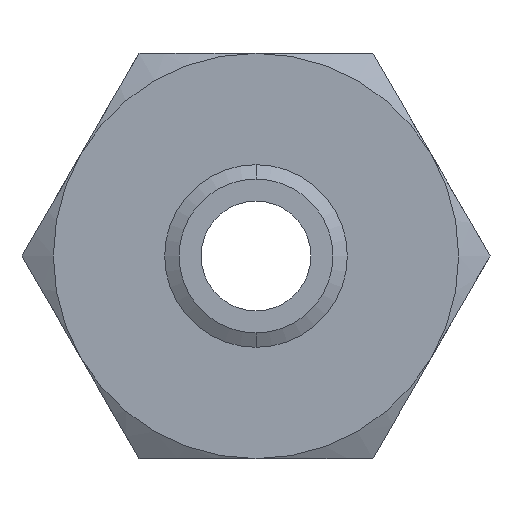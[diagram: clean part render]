
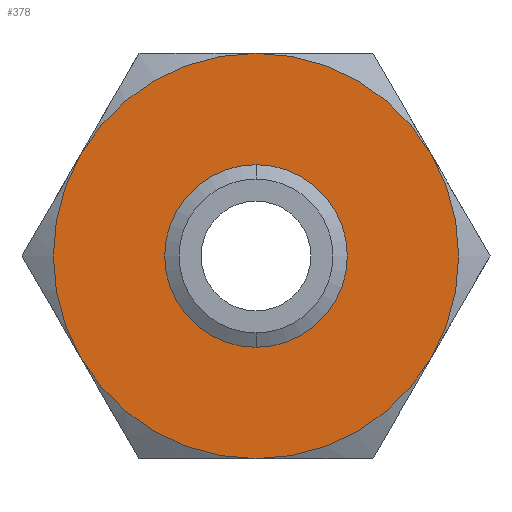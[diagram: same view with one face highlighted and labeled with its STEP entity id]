
A CAD part, front view. The second image highlights one B-rep face of the part: STEP entity #378.
In plain terms, the highlighted planar face has unit normal (0, -1, 0).
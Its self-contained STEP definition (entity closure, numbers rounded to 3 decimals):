
#376 = ORIENTED_EDGE ( 'NONE', *, *, #377, .F. ) ;
#377 = EDGE_CURVE ( 'NONE', #2456, #2445, #1299, .T. ) ;
#378 = ADVANCED_FACE ( 'NONE', ( #1289, #1288 ), #1285, .F. ) ;
#408 = VERTEX_POINT ( 'NONE', #1369 ) ;
#409 = EDGE_CURVE ( 'NONE', #521, #408, #1368, .T. ) ;
#410 = ORIENTED_EDGE ( 'NONE', *, *, #409, .F. ) ;
#477 = VERTEX_POINT ( 'NONE', #1513 ) ;
#478 = ORIENTED_EDGE ( 'NONE', *, *, #512, .F. ) ;
#479 = VERTEX_POINT ( 'NONE', #1512 ) ;
#481 = VERTEX_POINT ( 'NONE', #1511 ) ;
#483 = ORIENTED_EDGE ( 'NONE', *, *, #491, .F. ) ;
#484 = VERTEX_POINT ( 'NONE', #1508 ) ;
#485 = EDGE_CURVE ( 'NONE', #408, #484, #1503, .T. ) ;
#488 = ORIENTED_EDGE ( 'NONE', *, *, #485, .F. ) ;
#491 = EDGE_CURVE ( 'NONE', #484, #479, #1560, .T. ) ;
#508 = EDGE_LOOP ( 'NONE', ( #525, #517, #478, #483, #488, #410 ) ) ;
#512 = EDGE_CURVE ( 'NONE', #479, #477, #1587, .T. ) ;
#517 = ORIENTED_EDGE ( 'NONE', *, *, #518, .F. ) ;
#518 = EDGE_CURVE ( 'NONE', #477, #481, #1574, .T. ) ;
#521 = VERTEX_POINT ( 'NONE', #1561 ) ;
#525 = ORIENTED_EDGE ( 'NONE', *, *, #526, .F. ) ;
#526 = EDGE_CURVE ( 'NONE', #481, #521, #1618, .T. ) ;
#528 = EDGE_LOOP ( 'NONE', ( #529, #376 ) ) ;
#529 = ORIENTED_EDGE ( 'NONE', *, *, #2475, .F. ) ;
#1285 = PLANE ( 'NONE',  #1287 ) ;
#1286 = CARTESIAN_POINT ( 'NONE',  ( 44.745, 0., -77.5 ) ) ;
#1287 = AXIS2_PLACEMENT_3D ( 'NONE', #1286, #1345, #1344 ) ;
#1288 = FACE_BOUND ( 'NONE', #528, .T. ) ;
#1289 = FACE_OUTER_BOUND ( 'NONE', #508, .T. ) ;
#1290 = DIRECTION ( 'NONE',  ( 0., 0., -1. ) ) ;
#1291 = DIRECTION ( 'NONE',  ( 0., -1., 0. ) ) ;
#1292 = CARTESIAN_POINT ( 'NONE',  ( 0., 0., 0. ) ) ;
#1293 = AXIS2_PLACEMENT_3D ( 'NONE', #1292, #1291, #1290 ) ;
#1299 = CIRCLE ( 'NONE', #1293, 29.426 ) ;
#1344 = DIRECTION ( 'NONE',  ( 0., 0., 1. ) ) ;
#1345 = DIRECTION ( 'NONE',  ( 0., 1., 0. ) ) ;
#1364 = DIRECTION ( 'NONE',  ( 0., 0., 1. ) ) ;
#1365 = DIRECTION ( 'NONE',  ( 0., 1., 0. ) ) ;
#1366 = CARTESIAN_POINT ( 'NONE',  ( 0., 0., 0. ) ) ;
#1367 = AXIS2_PLACEMENT_3D ( 'NONE', #1366, #1365, #1364 ) ;
#1368 = CIRCLE ( 'NONE', #1367, 77.5 ) ;
#1369 = CARTESIAN_POINT ( 'NONE',  ( 67.117, 0., -38.75 ) ) ;
#1499 = DIRECTION ( 'NONE',  ( 0., 0., 1. ) ) ;
#1500 = DIRECTION ( 'NONE',  ( 0., 1., 0. ) ) ;
#1501 = CARTESIAN_POINT ( 'NONE',  ( 0., 0., 0. ) ) ;
#1502 = AXIS2_PLACEMENT_3D ( 'NONE', #1501, #1500, #1499 ) ;
#1503 = CIRCLE ( 'NONE', #1502, 77.5 ) ;
#1508 = CARTESIAN_POINT ( 'NONE',  ( 0., 0., -77.5 ) ) ;
#1511 = CARTESIAN_POINT ( 'NONE',  ( 0., 0., 77.5 ) ) ;
#1512 = CARTESIAN_POINT ( 'NONE',  ( -67.117, 0., -38.75 ) ) ;
#1513 = CARTESIAN_POINT ( 'NONE',  ( -67.117, 0., 38.75 ) ) ;
#1556 = DIRECTION ( 'NONE',  ( 0., 0., 1. ) ) ;
#1557 = DIRECTION ( 'NONE',  ( 0., 1., 0. ) ) ;
#1558 = CARTESIAN_POINT ( 'NONE',  ( 0., 0., 0. ) ) ;
#1559 = AXIS2_PLACEMENT_3D ( 'NONE', #1558, #1557, #1556 ) ;
#1560 = CIRCLE ( 'NONE', #1559, 77.5 ) ;
#1561 = CARTESIAN_POINT ( 'NONE',  ( 67.117, 0., 38.75 ) ) ;
#1570 = DIRECTION ( 'NONE',  ( 0., 0., 1. ) ) ;
#1571 = DIRECTION ( 'NONE',  ( 0., 1., 0. ) ) ;
#1572 = CARTESIAN_POINT ( 'NONE',  ( 0., 0., 0. ) ) ;
#1573 = AXIS2_PLACEMENT_3D ( 'NONE', #1572, #1571, #1570 ) ;
#1574 = CIRCLE ( 'NONE', #1573, 77.5 ) ;
#1580 = DIRECTION ( 'NONE',  ( 0., 0., 1. ) ) ;
#1581 = DIRECTION ( 'NONE',  ( 0., 1., 0. ) ) ;
#1582 = CARTESIAN_POINT ( 'NONE',  ( 0., 0., 0. ) ) ;
#1583 = AXIS2_PLACEMENT_3D ( 'NONE', #1582, #1581, #1580 ) ;
#1587 = CIRCLE ( 'NONE', #1583, 77.5 ) ;
#1614 = DIRECTION ( 'NONE',  ( 0., 0., 1. ) ) ;
#1615 = DIRECTION ( 'NONE',  ( 0., 1., 0. ) ) ;
#1616 = CARTESIAN_POINT ( 'NONE',  ( 0., 0., 0. ) ) ;
#1617 = AXIS2_PLACEMENT_3D ( 'NONE', #1616, #1615, #1614 ) ;
#1618 = CIRCLE ( 'NONE', #1617, 77.5 ) ;
#2060 = CARTESIAN_POINT ( 'NONE',  ( 0., 0., -29.426 ) ) ;
#2092 = CARTESIAN_POINT ( 'NONE',  ( 0., 0., 29.426 ) ) ;
#2119 = DIRECTION ( 'NONE',  ( 0., 0., -1. ) ) ;
#2120 = DIRECTION ( 'NONE',  ( 0., -1., 0. ) ) ;
#2121 = CARTESIAN_POINT ( 'NONE',  ( 0., 0., 0. ) ) ;
#2122 = AXIS2_PLACEMENT_3D ( 'NONE', #2121, #2120, #2119 ) ;
#2126 = CIRCLE ( 'NONE', #2122, 29.426 ) ;
#2445 = VERTEX_POINT ( 'NONE', #2060 ) ;
#2456 = VERTEX_POINT ( 'NONE', #2092 ) ;
#2475 = EDGE_CURVE ( 'NONE', #2445, #2456, #2126, .T. ) ;
